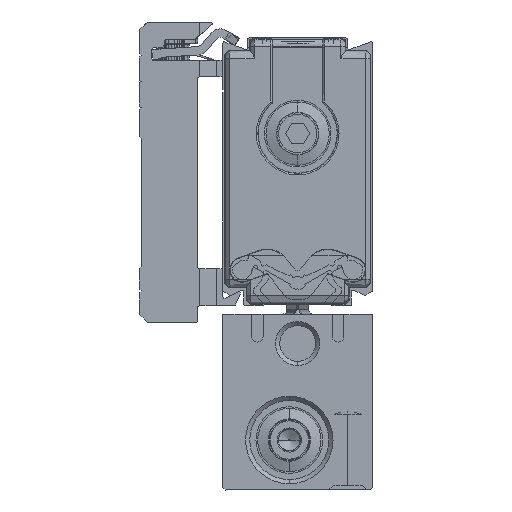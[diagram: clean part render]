
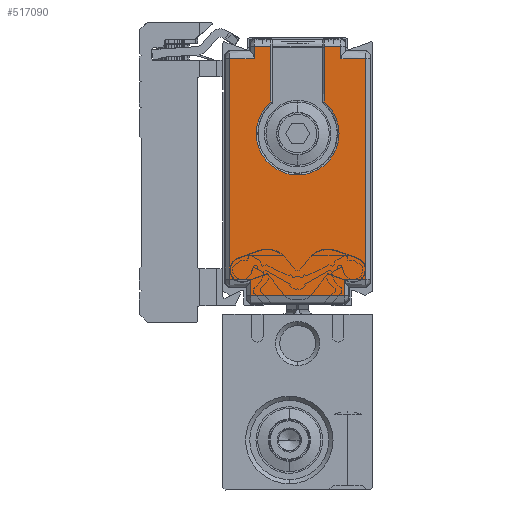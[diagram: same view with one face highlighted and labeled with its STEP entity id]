
A CAD part, left-side view. The second image highlights one B-rep face of the part: STEP entity #517090.
In plain terms, the highlighted planar face has unit normal (-1, 0, 0) as drawn and (0, 0, -1) by its records, which use the part's own axes.
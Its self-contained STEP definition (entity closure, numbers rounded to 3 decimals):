
#476250=CARTESIAN_POINT('',(24.688,30.224,-494.5));
#476260=VERTEX_POINT('',#476250);
#477310=CARTESIAN_POINT('',(31.365,35.75,-494.5));
#477320=DIRECTION('',(0.,-1.,0.));
#477330=VECTOR('',#477320,1.);
#477340=LINE('',#477310,#477330);
#477350=CARTESIAN_POINT('',(31.365,23.776,-494.5));
#477360=VERTEX_POINT('',#477350);
#477370=CARTESIAN_POINT('',(31.365,21.802,-494.5));
#477380=VERTEX_POINT('',#477370);
#477390=EDGE_CURVE('',#477360,#477380,#477340,.T.);
#484150=CARTESIAN_POINT('',(3.435,32.648,-494.5));
#484160=VERTEX_POINT('',#484150);
#484360=CARTESIAN_POINT('',(1.435,32.648,-494.5));
#484370=VERTEX_POINT('',#484360);
#484400=CARTESIAN_POINT('',(3.935,32.648,-494.5));
#484410=CARTESIAN_POINT('',(3.435,32.648,-494.5));
#484420=CARTESIAN_POINT('',(2.935,32.648,-494.5));
#484430=CARTESIAN_POINT('',(2.102,32.648,-494.5));
#484440=CARTESIAN_POINT('',(1.768,32.648,-494.5));
#484450=CARTESIAN_POINT('',(1.435,32.648,-494.5));
#484460=B_SPLINE_CURVE_WITH_KNOTS('',3,(#484400,#484410,#484420,#484430,
#484440,#484450),.UNSPECIFIED.,.F.,.F.,(4,2,4),(37.084,
38.584,39.584),.UNSPECIFIED.);
#484470=EDGE_CURVE('',#484160,#484370,#484460,.T.);
#485810=CARTESIAN_POINT('',(24.688,23.776,-494.5));
#485820=VERTEX_POINT('',#485810);
#487610=CARTESIAN_POINT('',(29.865,35.75,-494.5));
#487620=DIRECTION('',(0.,1.,0.));
#487630=VECTOR('',#487620,1.);
#487640=LINE('',#487610,#487630);
#487650=CARTESIAN_POINT('',(29.865,32.198,-494.5));
#487660=VERTEX_POINT('',#487650);
#487670=CARTESIAN_POINT('',(29.865,35.198,-494.5));
#487680=VERTEX_POINT('',#487670);
#487690=EDGE_CURVE('',#487660,#487680,#487640,.T.);
#489540=CARTESIAN_POINT('',(3.435,35.75,-494.5));
#489550=DIRECTION('',(0.,1.,0.));
#489560=VECTOR('',#489550,1.);
#489570=LINE('',#489540,#489560);
#489580=CARTESIAN_POINT('',(3.435,35.198,-494.5));
#489590=VERTEX_POINT('',#489580);
#489600=EDGE_CURVE('',#484160,#489590,#489570,.T.);
#490030=CARTESIAN_POINT('',(31.365,32.198,-494.5));
#490040=VERTEX_POINT('',#490030);
#490070=CARTESIAN_POINT('',(31.365,30.224,-494.5));
#490080=VERTEX_POINT('',#490070);
#490090=EDGE_CURVE('',#490040,#490080,#477340,.T.);
#490800=CARTESIAN_POINT('',(3.435,18.802,-494.5));
#490810=VERTEX_POINT('',#490800);
#491120=CARTESIAN_POINT('',(3.435,35.75,-494.5));
#491130=DIRECTION('',(0.,-1.,0.));
#491140=VECTOR('',#491130,1.);
#491150=LINE('',#491120,#491140);
#491160=CARTESIAN_POINT('',(3.435,21.352,-494.5));
#491170=VERTEX_POINT('',#491160);
#491180=EDGE_CURVE('',#491170,#490810,#491150,.T.);
#492030=CARTESIAN_POINT('',(1.435,21.352,-494.5));
#492040=VERTEX_POINT('',#492030);
#493510=CARTESIAN_POINT('',(3.935,21.352,-494.5));
#493520=CARTESIAN_POINT('',(3.435,21.352,-494.5));
#493530=CARTESIAN_POINT('',(2.935,21.352,-494.5));
#493540=CARTESIAN_POINT('',(2.102,21.352,-494.5));
#493550=CARTESIAN_POINT('',(1.768,21.352,-494.5));
#493560=CARTESIAN_POINT('',(1.435,21.352,-494.5));
#493570=B_SPLINE_CURVE_WITH_KNOTS('',3,(#493510,#493520,#493530,#493540,
#493550,#493560),.UNSPECIFIED.,.F.,.F.,(4,2,4),(37.084,
38.584,39.584),.UNSPECIFIED.);
#493580=EDGE_CURVE('',#491170,#492040,#493570,.T.);
#494760=CARTESIAN_POINT('',(1.435,35.75,-494.5));
#494770=DIRECTION('',(0.,1.,0.));
#494780=VECTOR('',#494770,1.);
#494790=LINE('',#494760,#494780);
#494800=EDGE_CURVE('',#492040,#484370,#494790,.T.);
#498550=CARTESIAN_POINT('',(0.15,30.224,-494.5));
#498560=DIRECTION('',(1.,0.,0.));
#498570=VECTOR('',#498560,1.);
#498580=LINE('',#498550,#498570);
#498590=EDGE_CURVE('',#476260,#490080,#498580,.T.);
#502330=CARTESIAN_POINT('',(29.865,21.802,-494.5));
#502340=VERTEX_POINT('',#502330);
#502390=CARTESIAN_POINT('',(29.365,21.802,-494.5));
#502400=CARTESIAN_POINT('',(29.782,21.802,-494.5));
#502410=CARTESIAN_POINT('',(30.198,21.802,-494.5));
#502420=CARTESIAN_POINT('',(30.865,21.802,-494.5));
#502430=CARTESIAN_POINT('',(31.115,21.802,-494.5));
#502440=CARTESIAN_POINT('',(31.365,21.802,-494.5));
#502450=B_SPLINE_CURVE_WITH_KNOTS('',3,(#502390,#502400,#502410,#502420,
#502430,#502440),.UNSPECIFIED.,.F.,.F.,(4,2,4),(37.587,
38.837,39.587),.UNSPECIFIED.);
#502460=EDGE_CURVE('',#502340,#477380,#502450,.T.);
#502790=CARTESIAN_POINT('',(29.365,32.198,-494.5));
#502800=CARTESIAN_POINT('',(29.782,32.198,-494.5));
#502810=CARTESIAN_POINT('',(30.198,32.198,-494.5));
#502820=CARTESIAN_POINT('',(30.865,32.198,-494.5));
#502830=CARTESIAN_POINT('',(31.115,32.198,-494.5));
#502840=CARTESIAN_POINT('',(31.365,32.198,-494.5));
#502850=B_SPLINE_CURVE_WITH_KNOTS('',3,(#502790,#502800,#502810,#502820,
#502830,#502840),.UNSPECIFIED.,.F.,.F.,(4,2,4),(37.587,
38.837,39.587),.UNSPECIFIED.);
#502860=EDGE_CURVE('',#487660,#490040,#502850,.T.);
#503850=CARTESIAN_POINT('',(29.865,18.802,-494.5));
#503860=VERTEX_POINT('',#503850);
#503890=CARTESIAN_POINT('',(3.435,18.802,-494.5));
#503900=CARTESIAN_POINT('',(7.84,18.802,-494.5));
#503910=CARTESIAN_POINT('',(12.245,18.802,-494.5));
#503920=CARTESIAN_POINT('',(21.055,18.802,-494.5));
#503930=CARTESIAN_POINT('',(25.46,18.802,-494.5));
#503940=CARTESIAN_POINT('',(29.865,18.802,-494.5));
#503950=B_SPLINE_CURVE_WITH_KNOTS('',3,(#503890,#503900,#503910,#503920,
#503930,#503940),.UNSPECIFIED.,.F.,.F.,(4,2,4),(24.334,
37.549,50.764),.UNSPECIFIED.);
#503960=EDGE_CURVE('',#490810,#503860,#503950,.T.);
#510290=CARTESIAN_POINT('',(29.865,35.75,-494.5));
#510300=DIRECTION('',(0.,-1.,0.));
#510310=VECTOR('',#510300,1.);
#510320=LINE('',#510290,#510310);
#510330=EDGE_CURVE('',#502340,#503860,#510320,.T.);
#511520=CARTESIAN_POINT('',(3.435,35.198,-494.5));
#511530=CARTESIAN_POINT('',(7.84,35.198,-494.5));
#511540=CARTESIAN_POINT('',(12.245,35.198,-494.5));
#511550=CARTESIAN_POINT('',(21.055,35.198,-494.5));
#511560=CARTESIAN_POINT('',(25.46,35.198,-494.5));
#511570=CARTESIAN_POINT('',(29.865,35.198,-494.5));
#511580=B_SPLINE_CURVE_WITH_KNOTS('',3,(#511520,#511530,#511540,#511550,
#511560,#511570),.UNSPECIFIED.,.F.,.F.,(4,2,4),(24.308,
37.523,50.738),.UNSPECIFIED.);
#511590=EDGE_CURVE('',#489590,#487680,#511580,.T.);
#516580=CARTESIAN_POINT('',(20.9,27.,-494.5));
#516590=DIRECTION('',(0.,0.,-1.));
#516600=DIRECTION('',(0.,1.,0.));
#516610=AXIS2_PLACEMENT_3D('',#516580,#516590,#516600);
#516620=CIRCLE('',#516610,4.974);
#516630=EDGE_CURVE('',#485820,#476260,#516620,.T.);
#516810=CARTESIAN_POINT('',(16.65,27.,-494.5));
#516820=DIRECTION('',(0.,0.,1.));
#516830=DIRECTION('',(0.,1.,0.));
#516840=AXIS2_PLACEMENT_3D('',#516810,#516820,#516830);
#516850=PLANE('',#516840);
#516860=ORIENTED_EDGE('',*,*,#516630,.F.);
#516870=ORIENTED_EDGE('',*,*,#498590,.F.);
#516880=ORIENTED_EDGE('',*,*,#490090,.T.);
#516890=ORIENTED_EDGE('',*,*,#502860,.T.);
#516900=ORIENTED_EDGE('',*,*,#487690,.F.);
#516910=ORIENTED_EDGE('',*,*,#511590,.T.);
#516920=ORIENTED_EDGE('',*,*,#489600,.T.);
#516930=ORIENTED_EDGE('',*,*,#484470,.F.);
#516940=ORIENTED_EDGE('',*,*,#494800,.T.);
#516950=ORIENTED_EDGE('',*,*,#493580,.T.);
#516960=ORIENTED_EDGE('',*,*,#491180,.F.);
#516970=ORIENTED_EDGE('',*,*,#503960,.F.);
#516980=ORIENTED_EDGE('',*,*,#510330,.T.);
#516990=ORIENTED_EDGE('',*,*,#502460,.F.);
#517000=ORIENTED_EDGE('',*,*,#477390,.T.);
#517010=CARTESIAN_POINT('',(0.15,23.776,-494.5));
#517020=DIRECTION('',(-1.,0.,0.));
#517030=VECTOR('',#517020,1.);
#517040=LINE('',#517010,#517030);
#517050=EDGE_CURVE('',#477360,#485820,#517040,.T.);
#517060=ORIENTED_EDGE('',*,*,#517050,.F.);
#517070=EDGE_LOOP('',(#517060,#517000,#516990,#516980,#516970,#516960,
#516950,#516940,#516930,#516920,#516910,#516900,#516890,#516880,#516870,
#516860));
#517080=FACE_OUTER_BOUND('',#517070,.T.);
#517090=ADVANCED_FACE('',(#517080),#516850,.F.);
